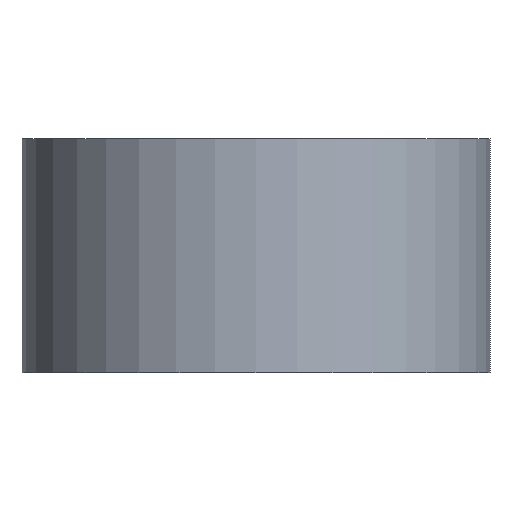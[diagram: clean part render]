
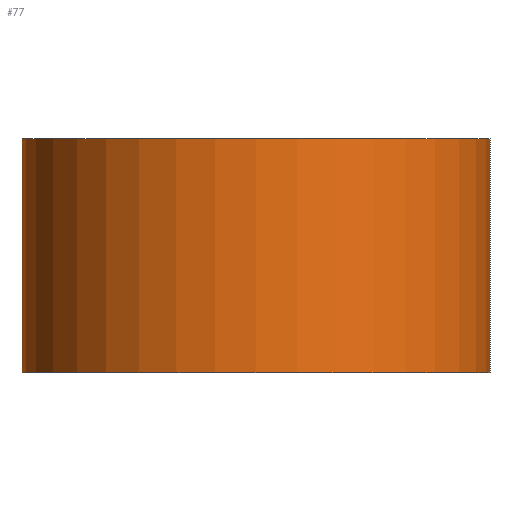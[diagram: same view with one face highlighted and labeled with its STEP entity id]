
A CAD part, front view. The second image highlights one B-rep face of the part: STEP entity #77.
In plain terms, the highlighted cylindrical face has radius 5 mm (diameter 10 mm), a full revolution.
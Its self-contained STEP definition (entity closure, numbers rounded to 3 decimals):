
#18=CYLINDRICAL_SURFACE('',#90,5.);
#22=FACE_BOUND('',#38,.T.);
#30=FACE_OUTER_BOUND('',#37,.T.);
#37=EDGE_LOOP('',(#67));
#38=EDGE_LOOP('',(#68));
#47=CIRCLE('',#91,5.);
#48=CIRCLE('',#92,5.);
#53=VERTEX_POINT('',#134);
#54=VERTEX_POINT('',#136);
#59=EDGE_CURVE('',#53,#53,#47,.T.);
#60=EDGE_CURVE('',#54,#54,#48,.T.);
#67=ORIENTED_EDGE('',*,*,#59,.T.);
#68=ORIENTED_EDGE('',*,*,#60,.F.);
#77=ADVANCED_FACE('',(#30,#22),#18,.T.);
#90=AXIS2_PLACEMENT_3D('',#133,#111,#112);
#91=AXIS2_PLACEMENT_3D('',#135,#113,#114);
#92=AXIS2_PLACEMENT_3D('',#137,#115,#116);
#111=DIRECTION('center_axis',(0.,0.,1.));
#112=DIRECTION('ref_axis',(-1.,0.,0.));
#113=DIRECTION('center_axis',(0.,0.,-1.));
#114=DIRECTION('ref_axis',(-1.,0.,0.));
#115=DIRECTION('center_axis',(0.,0.,-1.));
#116=DIRECTION('ref_axis',(-1.,0.,0.));
#133=CARTESIAN_POINT('Origin',(0.,0.,0.));
#134=CARTESIAN_POINT('',(5.,0.,5.));
#135=CARTESIAN_POINT('Origin',(0.,0.,5.));
#136=CARTESIAN_POINT('',(5.,0.,0.));
#137=CARTESIAN_POINT('Origin',(0.,0.,0.));
